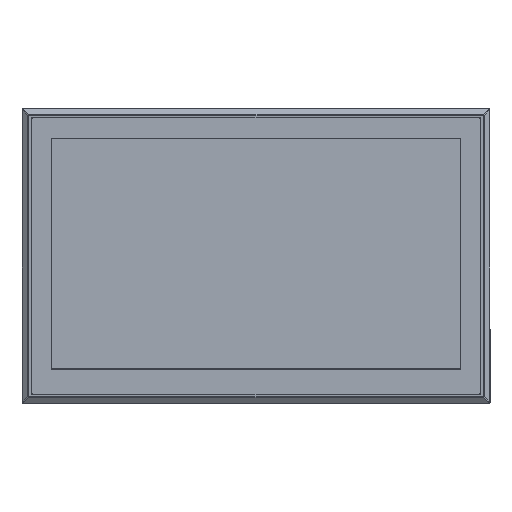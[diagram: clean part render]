
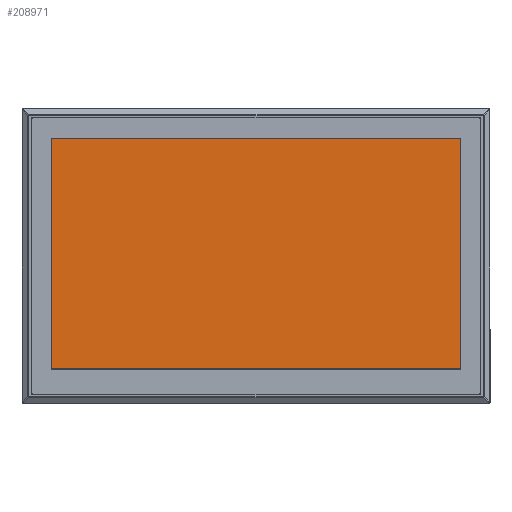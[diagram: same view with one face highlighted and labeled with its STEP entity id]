
A CAD part, top view. The second image highlights one B-rep face of the part: STEP entity #208971.
In plain terms, the highlighted planar face has unit normal (0, 0, 1).
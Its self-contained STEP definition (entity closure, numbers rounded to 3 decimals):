
#437 = CARTESIAN_POINT ( 'NONE',  ( 172.08, 96.295, -0.2 ) ) ;
#3463 = CARTESIAN_POINT ( 'NONE',  ( -172.08, -97.295, -0.2 ) ) ;
#5472 = VECTOR ( 'NONE', #58005, 1000. ) ;
#11732 = VERTEX_POINT ( 'NONE', #437 ) ;
#15288 = CARTESIAN_POINT ( 'NONE',  ( 172.08, -97.295, -0.2 ) ) ;
#16496 = AXIS2_PLACEMENT_3D ( 'NONE', #103533, #232667, #104682 ) ;
#19276 = VERTEX_POINT ( 'NONE', #15288 ) ;
#22994 = VERTEX_POINT ( 'NONE', #84349 ) ;
#32279 = EDGE_LOOP ( 'NONE', ( #147509, #134790, #118493, #113059 ) ) ;
#36274 = EDGE_CURVE ( 'NONE', #11732, #22994, #212161, .T. ) ;
#50745 = DIRECTION ( 'NONE',  ( 0., -1., 0. ) ) ;
#58005 = DIRECTION ( 'NONE',  ( 1., 0., 0. ) ) ;
#66811 = VECTOR ( 'NONE', #50745, 1000. ) ;
#72023 = LINE ( 'NONE', #157440, #66811 ) ;
#73690 = EDGE_CURVE ( 'NONE', #22994, #158502, #72023, .T. ) ;
#75788 = LINE ( 'NONE', #3463, #5472 ) ;
#82077 = DIRECTION ( 'NONE',  ( 0., 1., 0. ) ) ;
#84349 = CARTESIAN_POINT ( 'NONE',  ( -172.08, 96.295, -0.2 ) ) ;
#85708 = CARTESIAN_POINT ( 'NONE',  ( -172.08, -97.295, -0.2 ) ) ;
#94593 = EDGE_CURVE ( 'NONE', #19276, #11732, #153149, .T. ) ;
#103533 = CARTESIAN_POINT ( 'NONE',  ( 0., -2.5, -0.2 ) ) ;
#104682 = DIRECTION ( 'NONE',  ( 1., 0., 0. ) ) ;
#113059 = ORIENTED_EDGE ( 'NONE', *, *, #36274, .T. ) ;
#114098 = CARTESIAN_POINT ( 'NONE',  ( 172.08, 96.295, -0.2 ) ) ;
#118493 = ORIENTED_EDGE ( 'NONE', *, *, #94593, .T. ) ;
#124940 = VECTOR ( 'NONE', #82077, 1000. ) ;
#134790 = ORIENTED_EDGE ( 'NONE', *, *, #211232, .T. ) ;
#137547 = CARTESIAN_POINT ( 'NONE',  ( -172.08, 96.295, -0.2 ) ) ;
#139066 = FACE_OUTER_BOUND ( 'NONE', #32279, .T. ) ;
#147509 = ORIENTED_EDGE ( 'NONE', *, *, #73690, .T. ) ;
#153149 = LINE ( 'NONE', #114098, #124940 ) ;
#157440 = CARTESIAN_POINT ( 'NONE',  ( -172.08, 96.295, -0.2 ) ) ;
#158502 = VERTEX_POINT ( 'NONE', #85708 ) ;
#160322 = PLANE ( 'NONE',  #16496 ) ;
#176518 = DIRECTION ( 'NONE',  ( -1., 0., 0. ) ) ;
#182338 = VECTOR ( 'NONE', #176518, 1000. ) ;
#208971 = ADVANCED_FACE ( 'NONE', ( #139066 ), #160322, .T. ) ;
#211232 = EDGE_CURVE ( 'NONE', #158502, #19276, #75788, .T. ) ;
#212161 = LINE ( 'NONE', #137547, #182338 ) ;
#232667 = DIRECTION ( 'NONE',  ( 0., 0., 1. ) ) ;
